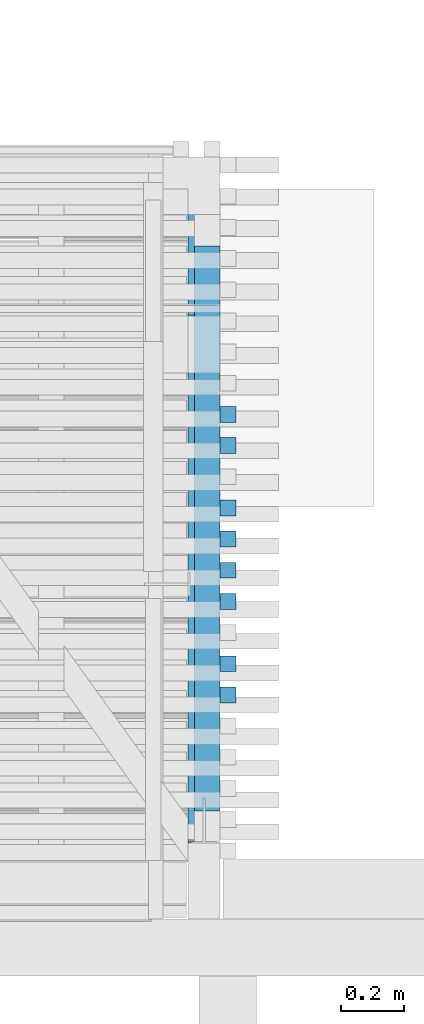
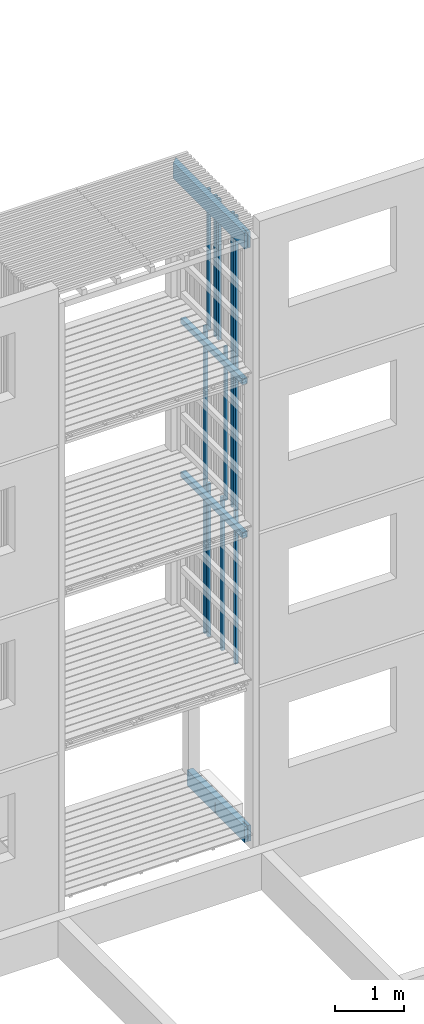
# One storey, part 106 of 182: 17 beams.
"""IFC2X3 building model written with IfcOpenShell, lengths in metres."""

from ifc_helpers import new_model, si_unit, frame, origin, place, context, project, spatial, faceted_brep, element, save


model = new_model("IFC2X3")

# Units and contexts
model_context = context("Model", 3, precision=1e-06, world=origin())
ifc_project = project(units=[si_unit("LENGTHUNIT", "METRE"), si_unit("PLANEANGLEUNIT", "RADIAN")], contexts=[model_context])

# Site, building, storey
site = spatial("IfcSite", under=ifc_project, CompositionType="ELEMENT")
building = spatial("IfcBuilding", under=site, CompositionType="ELEMENT")
storey = spatial("IfcBuildingStorey", under=building, Name="vs", CompositionType="ELEMENT", Elevation=-0.85)

# Beams
placement = place(None, origin())
beam_1_placement = place(placement, frame((46.37040135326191, 6.361441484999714, 7.974999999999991), z_axis=(-1.0, 0.0, 0.0), x_axis=(0.0, 0.0, 1.0)))
element("IfcBeam", 1, at=beam_1_placement, inside=storey, Name="Bardage", context=model_context, shape_type="Brep", body=[
    faceted_brep([(2.479999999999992, -0.025000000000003, 0.024999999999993), (2.479999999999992, -0.025000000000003, -0.025000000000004), (2.479999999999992, 0.024999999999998, -0.025000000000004), (2.479999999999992, 0.024999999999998, 0.024999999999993), (0.0, 0.024999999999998, 0.024999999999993), (0.0, -0.025000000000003, 0.024999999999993), (2.479999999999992, -0.025000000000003, 0.024999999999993), (2.479999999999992, 0.024999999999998, 0.024999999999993), (0.0, -0.025000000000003, 0.024999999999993), (0.0, 0.024999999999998, 0.024999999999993), (0.0, 0.024999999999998, -0.025000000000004), (0.0, -0.025000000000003, -0.025000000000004), (0.0, 0.024999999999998, -0.025000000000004), (0.0, 0.024999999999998, 0.024999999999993), (2.479999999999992, 0.024999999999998, 0.024999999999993), (2.479999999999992, 0.024999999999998, -0.025000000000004), (0.0, -0.025000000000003, -0.025000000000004), (0.0, 0.024999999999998, -0.025000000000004), (2.479999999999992, 0.024999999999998, -0.025000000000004), (2.479999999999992, -0.025000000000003, -0.025000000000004), (2.479999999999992, -0.025000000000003, 0.024999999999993), (0.0, -0.025000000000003, 0.024999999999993), (0.0, -0.025000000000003, -0.025000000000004), (2.479999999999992, -0.025000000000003, -0.025000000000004)], [[[0, 1, 2, 3]], [[4, 5, 6, 7]], [[8, 9, 10, 11]], [[12, 13, 14, 15]], [[16, 17, 18, 19]], [[20, 21, 22, 23]]]),
])
beam_2_placement = place(placement, frame((46.37040135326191, 6.361441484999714, 2.575000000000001), z_axis=(-1.0, 0.0, 0.0), x_axis=(0.0, 0.0, 1.0)))
element("IfcBeam", 2, at=beam_2_placement, inside=storey, Name="Bardage", context=model_context, shape_type="Brep", body=[
    faceted_brep([(0.0, -0.025000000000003, 0.024999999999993), (0.0, 0.024999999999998, 0.024999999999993), (0.0, 0.024999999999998, -0.025000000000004), (0.0, -0.025000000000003, -0.025000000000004), (2.699961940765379, 0.024999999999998, -0.025000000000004), (2.699961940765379, 0.024999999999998, 0.024999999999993), (2.699961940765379, -0.025000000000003, 0.024999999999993), (2.699961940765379, -0.025000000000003, -0.025000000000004), (0.0, -0.025000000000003, -0.025000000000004), (0.0, 0.024999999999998, -0.025000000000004), (2.699961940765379, 0.024999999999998, -0.025000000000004), (2.699961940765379, -0.025000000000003, -0.025000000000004), (2.699961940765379, 0.024999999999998, -0.025000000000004), (0.0, 0.024999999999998, -0.025000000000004), (0.0, 0.024999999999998, 0.024999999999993), (2.699961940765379, 0.024999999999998, 0.024999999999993), (2.699961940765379, 0.024999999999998, 0.024999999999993), (0.0, 0.024999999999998, 0.024999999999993), (0.0, -0.025000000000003, 0.024999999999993), (2.699961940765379, -0.025000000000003, 0.024999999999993), (2.699961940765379, -0.025000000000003, 0.024999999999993), (0.0, -0.025000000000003, 0.024999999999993), (0.0, -0.025000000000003, -0.025000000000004), (2.699961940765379, -0.025000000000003, -0.025000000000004)], [[[0, 1, 2, 3]], [[4, 5, 6, 7]], [[8, 9, 10, 11]], [[12, 13, 14, 15]], [[16, 17, 18, 19]], [[20, 21, 22, 23]]]),
])
beam_3_placement = place(placement, frame((46.37040135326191, 5.968714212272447, 2.575000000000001), z_axis=(-1.0, 0.0, 0.0), x_axis=(0.0, 0.0, 1.0)))
element("IfcBeam", 3, at=beam_3_placement, inside=storey, Name="Bardage", context=model_context, shape_type="Brep", body=[
    faceted_brep([(0.0, -0.024999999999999, 0.024999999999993), (0.0, 0.024999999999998, 0.024999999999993), (0.0, 0.024999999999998, -0.025000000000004), (0.0, -0.024999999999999, -0.025000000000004), (2.699961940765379, 0.024999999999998, -0.025000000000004), (2.699961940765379, 0.024999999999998, 0.024999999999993), (2.699961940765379, -0.024999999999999, 0.024999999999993), (2.699961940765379, -0.024999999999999, -0.025000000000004), (0.0, -0.024999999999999, -0.025000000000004), (0.0, 0.024999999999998, -0.025000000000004), (2.699961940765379, 0.024999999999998, -0.025000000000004), (2.699961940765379, -0.024999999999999, -0.025000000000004), (2.699961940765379, 0.024999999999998, -0.025000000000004), (0.0, 0.024999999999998, -0.025000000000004), (0.0, 0.024999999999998, 0.024999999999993), (2.699961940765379, 0.024999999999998, 0.024999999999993), (2.699961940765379, 0.024999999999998, 0.024999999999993), (0.0, 0.024999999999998, 0.024999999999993), (0.0, -0.024999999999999, 0.024999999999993), (2.699961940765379, -0.024999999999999, 0.024999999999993), (2.699961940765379, -0.024999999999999, 0.024999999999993), (0.0, -0.024999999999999, 0.024999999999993), (0.0, -0.024999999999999, -0.025000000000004), (2.699961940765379, -0.024999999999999, -0.025000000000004)], [[[0, 1, 2, 3]], [[4, 5, 6, 7]], [[8, 9, 10, 11]], [[12, 13, 14, 15]], [[16, 17, 18, 19]], [[20, 21, 22, 23]]]),
])
beam_4_placement = place(placement, frame((46.37040135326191, 5.575986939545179, 5.274999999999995), z_axis=(-1.0, 0.0, 0.0), x_axis=(0.0, 0.0, 1.0)))
element("IfcBeam", 4, at=beam_4_placement, inside=storey, Name="Bardage", context=model_context, shape_type="Brep", body=[
    faceted_brep([(1e-15, -0.025000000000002, 0.024999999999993), (1e-15, 0.024999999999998, 0.024999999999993), (1e-15, 0.024999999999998, -0.025000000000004), (1e-15, -0.025000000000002, -0.025000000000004), (2.699999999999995, -0.025000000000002, -0.025000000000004), (2.699999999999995, 0.024999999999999, -0.025000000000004), (2.699999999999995, 0.024999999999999, 0.024999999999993), (2.699999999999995, -0.025000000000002, 0.024999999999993), (1e-15, -0.025000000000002, 0.024999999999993), (1e-15, -0.025000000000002, -0.025000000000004), (2.699999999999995, -0.025000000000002, -0.025000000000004), (2.699999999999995, -0.025000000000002, 0.024999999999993), (2.699999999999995, -0.025000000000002, -0.025000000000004), (1e-15, -0.025000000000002, -0.025000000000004), (1e-15, 0.024999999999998, -0.025000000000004), (2.699999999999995, 0.024999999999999, -0.025000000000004), (2.699999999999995, 0.024999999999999, -0.025000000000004), (1e-15, 0.024999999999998, -0.025000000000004), (1e-15, 0.024999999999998, 0.024999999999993), (2.699999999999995, 0.024999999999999, 0.024999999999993), (2.699999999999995, 0.024999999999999, 0.024999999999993), (1e-15, 0.024999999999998, 0.024999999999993), (1e-15, -0.025000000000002, 0.024999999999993), (2.699999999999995, -0.025000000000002, 0.024999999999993)], [[[0, 1, 2, 3]], [[4, 5, 6, 7]], [[8, 9, 10, 11]], [[12, 13, 14, 15]], [[16, 17, 18, 19]], [[20, 21, 22, 23]]]),
])
beam_5_placement = place(placement, frame((46.2954013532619, 5.110077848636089, -0.119999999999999), z_axis=(0.0, 0.0, 1.0), x_axis=(0.0, 1.0, 0.0)))
element("IfcBeam", 5, at=beam_5_placement, inside=storey, Name="Sommier", context=model_context, shape_type="Brep", body=[
    faceted_brep([(1.660000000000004, 0.049999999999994, 0.14), (1.660000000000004, -0.050000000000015, 0.14), (1.660000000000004, -0.050000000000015, -0.14), (1.660000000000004, 0.049999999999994, -0.14), (0.142000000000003, -0.004000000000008, -0.14), (0.142000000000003, 0.003999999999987, -0.14), (0.005000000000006, 0.003999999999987, -0.14), (0.005000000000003, 0.040999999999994, -0.14), (4e-15, 0.040999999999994, -0.14), (0.0, 0.049999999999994, -0.14), (1.660000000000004, 0.049999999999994, -0.14), (1.660000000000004, -0.050000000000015, -0.14), (0.0, -0.050000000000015, -0.14), (4e-15, -0.041000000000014, -0.14), (0.005000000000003, -0.041000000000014, -0.14), (0.005000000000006, -0.004000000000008, -0.14), (1.660000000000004, 0.049999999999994, 0.14), (1.660000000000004, 0.049999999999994, -0.14), (0.0, 0.049999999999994, -0.14), (0.0, 0.049999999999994, 0.14), (0.852999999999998, 0.049999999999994, -0.123600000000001), (0.852999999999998, 0.049999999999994, 0.051399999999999), (0.776999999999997, 0.049999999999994, 0.051399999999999), (0.776999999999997, 0.049999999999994, -0.123600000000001), (0.0, -0.050000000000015, 0.14), (4e-15, -0.041000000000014, 0.14), (4e-15, -0.041000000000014, -0.14), (0.0, -0.050000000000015, -0.14), (0.852999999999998, 0.044999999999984, -0.123600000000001), (0.776999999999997, 0.044999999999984, -0.123600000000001), (0.776999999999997, 0.044999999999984, 0.051399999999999), (0.852999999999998, 0.044999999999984, 0.051399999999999), (0.852999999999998, 0.044999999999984, 0.051399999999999), (0.776999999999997, 0.044999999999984, 0.051399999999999), (0.776999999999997, 0.049999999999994, 0.051399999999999), (0.852999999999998, 0.049999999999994, 0.051399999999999), (0.776999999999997, 0.044999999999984, -0.123600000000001), (0.852999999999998, 0.044999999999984, -0.123600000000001), (0.852999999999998, 0.049999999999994, -0.123600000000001), (0.776999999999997, 0.049999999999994, -0.123600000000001), (0.852999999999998, 0.049999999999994, 0.051399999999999), (0.852999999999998, 0.049999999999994, -0.123600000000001), (0.852999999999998, 0.044999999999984, -0.123600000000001), (0.852999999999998, 0.044999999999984, 0.051399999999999), (0.776999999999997, 0.044999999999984, 0.051399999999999), (0.776999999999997, 0.044999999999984, -0.123600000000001), (0.776999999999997, 0.049999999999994, -0.123600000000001), (0.776999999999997, 0.049999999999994, 0.051399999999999), (0.0, -0.050000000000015, -0.14), (1.660000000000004, -0.050000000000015, -0.14), (1.660000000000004, -0.050000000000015, 0.14), (0.0, -0.050000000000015, 0.14), (0.0, 0.049999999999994, 0.14), (0.0, 0.049999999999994, -0.14), (4e-15, 0.040999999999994, -0.14), (4e-15, 0.040999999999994, 0.14), (0.0, -0.050000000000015, 0.14), (1.660000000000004, -0.050000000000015, 0.14), (1.660000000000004, 0.049999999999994, 0.14), (0.0, 0.049999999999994, 0.14), (4e-15, 0.040999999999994, 0.14), (0.005000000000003, 0.040999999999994, 0.14), (0.005000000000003, 0.003999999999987, 0.14), (0.142000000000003, 0.003999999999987, 0.140000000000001), (0.142000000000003, -0.004000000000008, 0.140000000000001), (0.005000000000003, -0.004000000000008, 0.14), (0.005000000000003, -0.041000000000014, 0.14), (4e-15, -0.041000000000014, 0.14), (0.142000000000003, 0.003999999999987, -0.14), (0.142000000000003, -0.004000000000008, -0.14), (0.142000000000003, -0.004000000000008, 0.140000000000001), (0.142000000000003, 0.003999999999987, 0.140000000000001), (0.005000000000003, -0.004000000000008, 0.14), (0.142000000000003, -0.004000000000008, 0.140000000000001), (0.142000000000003, -0.004000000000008, -0.14), (0.005000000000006, -0.004000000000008, -0.14), (0.005000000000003, -0.004000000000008, 0.14), (0.005000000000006, -0.004000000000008, -0.14), (0.005000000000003, -0.041000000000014, -0.14), (0.005000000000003, -0.041000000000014, 0.14), (0.005000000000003, -0.041000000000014, 0.14), (0.005000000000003, -0.041000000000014, -0.14), (4e-15, -0.041000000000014, -0.14), (4e-15, -0.041000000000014, 0.14), (4e-15, 0.040999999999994, 0.14), (4e-15, 0.040999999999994, -0.14), (0.005000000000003, 0.040999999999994, -0.14), (0.005000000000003, 0.040999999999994, 0.14), (0.005000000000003, 0.040999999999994, 0.14), (0.005000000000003, 0.040999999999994, -0.14), (0.005000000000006, 0.003999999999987, -0.14), (0.005000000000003, 0.003999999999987, 0.14), (0.142000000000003, 0.003999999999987, 0.140000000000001), (0.005000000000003, 0.003999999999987, 0.14), (0.005000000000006, 0.003999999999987, -0.14), (0.142000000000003, 0.003999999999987, -0.14)], [[[0, 1, 2, 3]], [[4, 5, 6, 7, 8, 9, 10, 11, 12, 13, 14, 15]], [[16, 17, 18, 19], [20, 21, 22, 23]], [[24, 25, 26, 27]], [[28, 29, 30, 31]], [[32, 33, 34, 35]], [[36, 37, 38, 39]], [[40, 41, 42, 43]], [[44, 45, 46, 47]], [[48, 49, 50, 51]], [[52, 53, 54, 55]], [[56, 57, 58, 59, 60, 61, 62, 63, 64, 65, 66, 67]], [[68, 69, 70, 71]], [[72, 73, 74, 75]], [[76, 77, 78, 79]], [[80, 81, 82, 83]], [[84, 85, 86, 87]], [[88, 89, 90, 91]], [[92, 93, 94, 95]]]),
])
beam_6_placement = place(placement, frame((46.29540135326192, 5.115077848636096, 10.314999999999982), z_axis=(0.0, 0.0, 1.0), x_axis=(0.0, 1.0, 0.0)))
element("IfcBeam", 6, at=beam_6_placement, inside=storey, Name="Sommier", context=model_context, shape_type="Brep", body=[
    faceted_brep([(2.054999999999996, 0.049999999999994, 0.140000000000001), (2.054999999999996, 0.049999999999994, -0.140000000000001), (0.0, 0.049999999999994, -0.140000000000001), (0.0, 0.049999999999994, 0.140000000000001), (2.054999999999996, 0.049999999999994, -0.140000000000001), (2.054999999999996, 0.049999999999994, 0.140000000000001), (2.154999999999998, -0.05, 0.140000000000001), (2.154999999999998, -0.05, -0.140000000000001), (-4e-15, -0.003999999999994, 0.140000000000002), (0.0, -0.05, 0.140000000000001), (2.154999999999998, -0.05, 0.140000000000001), (2.054999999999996, 0.049999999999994, 0.140000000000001), (0.0, 0.049999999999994, 0.140000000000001), (-4e-15, 0.004000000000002, 0.140000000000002), (0.136999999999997, 0.004000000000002, 0.140000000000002), (0.136999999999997, -0.003999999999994, 0.140000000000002), (2.154999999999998, -0.05, -0.140000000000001), (2.154999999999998, -0.05, 0.140000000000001), (0.0, -0.05, 0.140000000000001), (0.0, -0.05, -0.140000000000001), (0.0, 0.004000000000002, -0.139999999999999), (-4e-15, 0.004000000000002, 0.140000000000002), (0.0, 0.049999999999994, 0.140000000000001), (0.0, 0.049999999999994, -0.140000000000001), (0.0, -0.05, 0.140000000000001), (-4e-15, -0.003999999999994, 0.140000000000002), (0.0, -0.003999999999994, -0.139999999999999), (0.0, -0.05, -0.140000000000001), (0.0, 0.049999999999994, -0.140000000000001), (2.054999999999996, 0.049999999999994, -0.140000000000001), (2.154999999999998, -0.05, -0.140000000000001), (0.0, -0.05, -0.140000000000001), (0.0, -0.003999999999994, -0.139999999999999), (0.136999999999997, -0.003999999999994, -0.139999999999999), (0.136999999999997, 0.004000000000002, -0.139999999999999), (0.0, 0.004000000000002, -0.139999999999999), (0.136999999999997, 0.004000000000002, -0.139999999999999), (0.136999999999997, -0.003999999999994, -0.139999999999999), (0.136999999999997, -0.003999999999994, 0.140000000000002), (0.136999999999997, 0.004000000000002, 0.140000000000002), (-4e-15, -0.003999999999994, 0.140000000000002), (0.136999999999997, -0.003999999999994, 0.140000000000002), (0.136999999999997, -0.003999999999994, -0.139999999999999), (0.0, -0.003999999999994, -0.139999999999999), (0.136999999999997, 0.004000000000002, 0.140000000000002), (-4e-15, 0.004000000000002, 0.140000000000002), (0.0, 0.004000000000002, -0.139999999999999), (0.136999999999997, 0.004000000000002, -0.139999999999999)], [[[0, 1, 2, 3]], [[4, 5, 6, 7]], [[8, 9, 10, 11, 12, 13, 14, 15]], [[16, 17, 18, 19]], [[20, 21, 22, 23]], [[24, 25, 26, 27]], [[28, 29, 30, 31, 32, 33, 34, 35]], [[36, 37, 38, 39]], [[40, 41, 42, 43]], [[44, 45, 46, 47]]]),
])
beam_7_placement = place(placement, frame((46.37040135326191, 5.674168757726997, 5.274999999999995), z_axis=(-1.0, 0.0, 0.0), x_axis=(0.0, 0.0, 1.0)))
element("IfcBeam", 7, at=beam_7_placement, inside=storey, Name="Bardage", context=model_context, shape_type="Brep", body=[
    faceted_brep([(1e-15, -0.025000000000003, 0.024999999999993), (1e-15, 0.024999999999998, 0.024999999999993), (1e-15, 0.024999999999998, -0.025000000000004), (1e-15, -0.025000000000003, -0.025000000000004), (2.699999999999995, -0.025000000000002, -0.025000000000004), (2.699999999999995, 0.024999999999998, -0.025000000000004), (2.699999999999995, 0.024999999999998, 0.024999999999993), (2.699999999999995, -0.025000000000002, 0.024999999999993), (1e-15, -0.025000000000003, 0.024999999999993), (1e-15, -0.025000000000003, -0.025000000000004), (2.699999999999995, -0.025000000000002, -0.025000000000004), (2.699999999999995, -0.025000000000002, 0.024999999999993), (2.699999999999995, -0.025000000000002, -0.025000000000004), (1e-15, -0.025000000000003, -0.025000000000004), (1e-15, 0.024999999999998, -0.025000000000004), (2.699999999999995, 0.024999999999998, -0.025000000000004), (2.699999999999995, 0.024999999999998, -0.025000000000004), (1e-15, 0.024999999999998, -0.025000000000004), (1e-15, 0.024999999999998, 0.024999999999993), (2.699999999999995, 0.024999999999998, 0.024999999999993), (2.699999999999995, 0.024999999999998, 0.024999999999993), (1e-15, 0.024999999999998, 0.024999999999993), (1e-15, -0.025000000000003, 0.024999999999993), (2.699999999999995, -0.025000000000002, 0.024999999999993)], [[[0, 1, 2, 3]], [[4, 5, 6, 7]], [[8, 9, 10, 11]], [[12, 13, 14, 15]], [[16, 17, 18, 19]], [[20, 21, 22, 23]]]),
])
beam_8_placement = place(placement, frame((46.37040135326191, 6.066896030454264, 7.974999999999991), z_axis=(-1.0, 0.0, 0.0), x_axis=(0.0, 0.0, 1.0)))
element("IfcBeam", 8, at=beam_8_placement, inside=storey, Name="Bardage", context=model_context, shape_type="Brep", body=[
    faceted_brep([(2.479999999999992, -0.025000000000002, 0.024999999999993), (2.479999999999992, -0.025000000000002, -0.025000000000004), (2.479999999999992, 0.024999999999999, -0.025000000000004), (2.479999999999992, 0.024999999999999, 0.024999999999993), (0.0, 0.024999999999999, 0.024999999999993), (0.0, -0.025000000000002, 0.024999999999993), (2.479999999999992, -0.025000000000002, 0.024999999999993), (2.479999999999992, 0.024999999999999, 0.024999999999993), (0.0, -0.025000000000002, 0.024999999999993), (0.0, 0.024999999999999, 0.024999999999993), (0.0, 0.024999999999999, -0.025000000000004), (0.0, -0.025000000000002, -0.025000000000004), (0.0, 0.024999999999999, -0.025000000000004), (0.0, 0.024999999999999, 0.024999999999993), (2.479999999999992, 0.024999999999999, 0.024999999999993), (2.479999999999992, 0.024999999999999, -0.025000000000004), (0.0, -0.025000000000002, -0.025000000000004), (0.0, 0.024999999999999, -0.025000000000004), (2.479999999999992, 0.024999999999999, -0.025000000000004), (2.479999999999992, -0.025000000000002, -0.025000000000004), (2.479999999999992, -0.025000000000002, 0.024999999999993), (0.0, -0.025000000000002, 0.024999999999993), (0.0, -0.025000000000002, -0.025000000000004), (2.479999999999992, -0.025000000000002, -0.025000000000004)], [[[0, 1, 2, 3]], [[4, 5, 6, 7]], [[8, 9, 10, 11]], [[12, 13, 14, 15]], [[16, 17, 18, 19]], [[20, 21, 22, 23]]]),
])
beam_9_placement = place(placement, frame((46.37040135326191, 6.459623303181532, 2.575000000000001), z_axis=(-1.0, 0.0, 0.0), x_axis=(0.0, 0.0, 1.0)))
element("IfcBeam", 9, at=beam_9_placement, inside=storey, Name="Bardage", context=model_context, shape_type="Brep", body=[
    faceted_brep([(0.0, -0.025000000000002, 0.024999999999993), (0.0, 0.024999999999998, 0.024999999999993), (0.0, 0.024999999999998, -0.025000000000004), (0.0, -0.025000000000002, -0.025000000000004), (2.699961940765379, 0.024999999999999, -0.025000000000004), (2.699961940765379, 0.024999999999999, 0.024999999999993), (2.699961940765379, -0.025000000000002, 0.024999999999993), (2.699961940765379, -0.025000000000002, -0.025000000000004), (0.0, -0.025000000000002, -0.025000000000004), (0.0, 0.024999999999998, -0.025000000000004), (2.699961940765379, 0.024999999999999, -0.025000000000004), (2.699961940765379, -0.025000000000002, -0.025000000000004), (2.699961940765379, 0.024999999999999, -0.025000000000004), (0.0, 0.024999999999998, -0.025000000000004), (0.0, 0.024999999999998, 0.024999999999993), (2.699961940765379, 0.024999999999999, 0.024999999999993), (2.699961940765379, 0.024999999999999, 0.024999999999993), (0.0, 0.024999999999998, 0.024999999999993), (0.0, -0.025000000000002, 0.024999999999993), (2.699961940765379, -0.025000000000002, 0.024999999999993), (2.699961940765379, -0.025000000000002, 0.024999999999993), (0.0, -0.025000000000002, 0.024999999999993), (0.0, -0.025000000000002, -0.025000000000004), (2.699961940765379, -0.025000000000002, -0.025000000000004)], [[[0, 1, 2, 3]], [[4, 5, 6, 7]], [[8, 9, 10, 11]], [[12, 13, 14, 15]], [[16, 17, 18, 19]], [[20, 21, 22, 23]]]),
])
beam_10_placement = place(placement, frame((46.37040135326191, 6.459623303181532, 5.274999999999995), z_axis=(-1.0, 0.0, 0.0), x_axis=(0.0, 0.0, 1.0)))
element("IfcBeam", 10, at=beam_10_placement, inside=storey, Name="Bardage", context=model_context, shape_type="Brep", body=[
    faceted_brep([(1e-15, -0.025000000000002, 0.024999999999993), (1e-15, 0.024999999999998, 0.024999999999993), (1e-15, 0.024999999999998, -0.025000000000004), (1e-15, -0.025000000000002, -0.025000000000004), (2.699999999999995, -0.025000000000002, -0.025000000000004), (2.699999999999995, 0.024999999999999, -0.025000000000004), (2.699999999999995, 0.024999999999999, 0.024999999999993), (2.699999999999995, -0.025000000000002, 0.024999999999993), (1e-15, -0.025000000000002, 0.024999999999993), (1e-15, -0.025000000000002, -0.025000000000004), (2.699999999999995, -0.025000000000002, -0.025000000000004), (2.699999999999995, -0.025000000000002, 0.024999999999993), (2.699999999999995, -0.025000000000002, -0.025000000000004), (1e-15, -0.025000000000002, -0.025000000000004), (1e-15, 0.024999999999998, -0.025000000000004), (2.699999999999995, 0.024999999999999, -0.025000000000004), (2.699999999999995, 0.024999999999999, -0.025000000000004), (1e-15, 0.024999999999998, -0.025000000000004), (1e-15, 0.024999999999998, 0.024999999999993), (2.699999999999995, 0.024999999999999, 0.024999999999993), (2.699999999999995, 0.024999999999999, 0.024999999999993), (1e-15, 0.024999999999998, 0.024999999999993), (1e-15, -0.025000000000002, 0.024999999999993), (2.699999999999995, -0.025000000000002, 0.024999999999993)], [[[0, 1, 2, 3]], [[4, 5, 6, 7]], [[8, 9, 10, 11]], [[12, 13, 14, 15]], [[16, 17, 18, 19]], [[20, 21, 22, 23]]]),
])
beam_11_placement = place(placement, frame((46.30540135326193, 5.210077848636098, 5.074999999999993), z_axis=(0.0, 0.0, 1.0), x_axis=(0.0, 1.0, 0.0)))
element("IfcBeam", 11, at=beam_11_placement, inside=storey, Name="Support bardage", context=model_context, shape_type="Brep", body=[
    faceted_brep([(1.779999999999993, -0.039999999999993, 0.050000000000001), (1.779999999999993, -0.039999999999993, -0.050000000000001), (1.779999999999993, 0.04000000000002, -0.050000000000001), (1.779999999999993, 0.04000000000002, 0.050000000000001), (-4e-15, -0.039999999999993, -0.050000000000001), (1.779999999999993, -0.039999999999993, -0.050000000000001), (1.779999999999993, -0.039999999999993, 0.050000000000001), (-4e-15, -0.039999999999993, 0.050000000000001), (-4e-15, 0.04000000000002, -0.050000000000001), (1.779999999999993, 0.04000000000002, -0.050000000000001), (1.779999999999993, -0.039999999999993, -0.050000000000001), (-4e-15, -0.039999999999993, -0.050000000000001), (-4e-15, 0.04000000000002, 0.050000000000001), (1.779999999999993, 0.04000000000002, 0.050000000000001), (1.779999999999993, 0.04000000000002, -0.050000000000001), (-4e-15, 0.04000000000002, -0.050000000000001), (-4e-15, -0.039999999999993, 0.050000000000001), (1.779999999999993, -0.039999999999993, 0.050000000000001), (1.779999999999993, 0.04000000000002, 0.050000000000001), (-4e-15, 0.04000000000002, 0.050000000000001), (-4e-15, -0.039999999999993, -0.050000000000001), (-4e-15, -0.039999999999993, 0.050000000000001), (-4e-15, 0.04000000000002, 0.050000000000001), (-4e-15, 0.04000000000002, -0.050000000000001)], [[[0, 1, 2, 3]], [[4, 5, 6, 7]], [[8, 9, 10, 11]], [[12, 13, 14, 15]], [[16, 17, 18, 19]], [[20, 21, 22, 23]]]),
])
beam_12_placement = place(placement, frame((46.30540135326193, 5.210077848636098, 7.774999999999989), z_axis=(0.0, 0.0, 1.0), x_axis=(0.0, 1.0, 0.0)))
element("IfcBeam", 12, at=beam_12_placement, inside=storey, Name="Support bardage", context=model_context, shape_type="Brep", body=[
    faceted_brep([(1.779999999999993, -0.039999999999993, 0.050000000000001), (1.779999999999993, -0.039999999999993, -0.050000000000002), (1.779999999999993, 0.04000000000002, -0.050000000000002), (1.779999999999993, 0.04000000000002, 0.050000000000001), (-4e-15, -0.039999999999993, -0.050000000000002), (1.779999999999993, -0.039999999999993, -0.050000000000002), (1.779999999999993, -0.039999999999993, 0.050000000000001), (-4e-15, -0.039999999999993, 0.050000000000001), (-4e-15, 0.04000000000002, -0.050000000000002), (1.779999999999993, 0.04000000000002, -0.050000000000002), (1.779999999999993, -0.039999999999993, -0.050000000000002), (-4e-15, -0.039999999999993, -0.050000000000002), (-4e-15, 0.04000000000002, 0.050000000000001), (1.779999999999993, 0.04000000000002, 0.050000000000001), (1.779999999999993, 0.04000000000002, -0.050000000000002), (-4e-15, 0.04000000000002, -0.050000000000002), (-4e-15, -0.039999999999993, 0.050000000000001), (1.779999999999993, -0.039999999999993, 0.050000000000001), (1.779999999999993, 0.04000000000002, 0.050000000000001), (-4e-15, 0.04000000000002, 0.050000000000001), (-4e-15, -0.039999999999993, -0.050000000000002), (-4e-15, -0.039999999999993, 0.050000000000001), (-4e-15, 0.04000000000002, 0.050000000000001), (-4e-15, 0.04000000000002, -0.050000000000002)], [[[0, 1, 2, 3]], [[4, 5, 6, 7]], [[8, 9, 10, 11]], [[12, 13, 14, 15]], [[16, 17, 18, 19]], [[20, 21, 22, 23]]]),
])
beam_13_placement = place(placement, frame((46.37040135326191, 6.165077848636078, 7.974999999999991), z_axis=(-1.0, 0.0, 0.0), x_axis=(0.0, 1e-15, 1.0)))
element("IfcBeam", 13, at=beam_13_placement, inside=storey, Name="Bardage", context=model_context, shape_type="Brep", body=[
    faceted_brep([(2.479999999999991, -0.025000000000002, 0.024999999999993), (2.479999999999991, -0.025000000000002, -0.025000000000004), (2.479999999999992, 0.024999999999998, -0.025000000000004), (2.479999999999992, 0.024999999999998, 0.024999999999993), (0.0, 0.025000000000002, 0.024999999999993), (0.0, -0.024999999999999, 0.024999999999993), (2.479999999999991, -0.025000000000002, 0.024999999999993), (2.479999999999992, 0.024999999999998, 0.024999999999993), (0.0, -0.024999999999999, 0.024999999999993), (0.0, 0.025000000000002, 0.024999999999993), (0.0, 0.025000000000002, -0.025000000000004), (0.0, -0.024999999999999, -0.025000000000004), (0.0, 0.025000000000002, -0.025000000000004), (0.0, 0.025000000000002, 0.024999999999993), (2.479999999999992, 0.024999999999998, 0.024999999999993), (2.479999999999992, 0.024999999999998, -0.025000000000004), (0.0, -0.024999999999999, -0.025000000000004), (0.0, 0.025000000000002, -0.025000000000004), (2.479999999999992, 0.024999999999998, -0.025000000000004), (2.479999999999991, -0.025000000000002, -0.025000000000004), (2.479999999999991, -0.025000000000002, 0.024999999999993), (0.0, -0.024999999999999, 0.024999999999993), (0.0, -0.024999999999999, -0.025000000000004), (2.479999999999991, -0.025000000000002, -0.025000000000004)], [[[0, 1, 2, 3]], [[4, 5, 6, 7]], [[8, 9, 10, 11]], [[12, 13, 14, 15]], [[16, 17, 18, 19]], [[20, 21, 22, 23]]]),
])
beam_14_placement = place(placement, frame((46.37040135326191, 5.870532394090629, 5.274999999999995), z_axis=(-1.0, 0.0, 0.0), x_axis=(0.0, 0.0, 1.0)))
element("IfcBeam", 14, at=beam_14_placement, inside=storey, Name="Bardage", context=model_context, shape_type="Brep", body=[
    faceted_brep([(1e-15, -0.025000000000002, 0.024999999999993), (1e-15, 0.025000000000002, 0.024999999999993), (1e-15, 0.025000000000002, -0.025000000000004), (1e-15, -0.025000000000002, -0.025000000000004), (2.699999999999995, -0.025000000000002, -0.025000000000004), (2.699999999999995, 0.025000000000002, -0.025000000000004), (2.699999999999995, 0.025000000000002, 0.024999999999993), (2.699999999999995, -0.025000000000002, 0.024999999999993), (1e-15, -0.025000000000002, 0.024999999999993), (1e-15, -0.025000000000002, -0.025000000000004), (2.699999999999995, -0.025000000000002, -0.025000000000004), (2.699999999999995, -0.025000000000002, 0.024999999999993), (2.699999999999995, -0.025000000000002, -0.025000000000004), (1e-15, -0.025000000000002, -0.025000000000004), (1e-15, 0.025000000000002, -0.025000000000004), (2.699999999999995, 0.025000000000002, -0.025000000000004), (2.699999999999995, 0.025000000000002, -0.025000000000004), (1e-15, 0.025000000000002, -0.025000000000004), (1e-15, 0.025000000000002, 0.024999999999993), (2.699999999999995, 0.025000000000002, 0.024999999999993), (2.699999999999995, 0.025000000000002, 0.024999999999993), (1e-15, 0.025000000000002, 0.024999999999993), (1e-15, -0.025000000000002, 0.024999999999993), (2.699999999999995, -0.025000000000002, 0.024999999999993)], [[[0, 1, 2, 3]], [[4, 5, 6, 7]], [[8, 9, 10, 11]], [[12, 13, 14, 15]], [[16, 17, 18, 19]], [[20, 21, 22, 23]]]),
])
beam_15_placement = place(placement, frame((46.37040135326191, 5.575986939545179, 7.974999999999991), z_axis=(-1.0, 0.0, 0.0), x_axis=(0.0, 0.0, 1.0)))
element("IfcBeam", 15, at=beam_15_placement, inside=storey, Name="Bardage", context=model_context, shape_type="Brep", body=[
    faceted_brep([(2.479999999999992, -0.025000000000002, 0.024999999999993), (2.479999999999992, -0.025000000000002, -0.025000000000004), (2.479999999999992, 0.024999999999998, -0.025000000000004), (2.479999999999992, 0.024999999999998, 0.024999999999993), (0.0, 0.024999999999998, 0.024999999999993), (0.0, -0.025000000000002, 0.024999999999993), (2.479999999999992, -0.025000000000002, 0.024999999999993), (2.479999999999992, 0.024999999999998, 0.024999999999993), (0.0, -0.025000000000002, 0.024999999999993), (0.0, 0.024999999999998, 0.024999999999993), (0.0, 0.024999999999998, -0.025000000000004), (0.0, -0.025000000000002, -0.025000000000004), (0.0, 0.024999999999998, -0.025000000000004), (0.0, 0.024999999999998, 0.024999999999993), (2.479999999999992, 0.024999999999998, 0.024999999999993), (2.479999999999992, 0.024999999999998, -0.025000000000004), (0.0, -0.025000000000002, -0.025000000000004), (0.0, 0.024999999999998, -0.025000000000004), (2.479999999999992, 0.024999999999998, -0.025000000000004), (2.479999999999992, -0.025000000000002, -0.025000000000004), (2.479999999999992, -0.025000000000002, 0.024999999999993), (0.0, -0.025000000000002, 0.024999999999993), (0.0, -0.025000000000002, -0.025000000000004), (2.479999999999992, -0.025000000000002, -0.025000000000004)], [[[0, 1, 2, 3]], [[4, 5, 6, 7]], [[8, 9, 10, 11]], [[12, 13, 14, 15]], [[16, 17, 18, 19]], [[20, 21, 22, 23]]]),
])
beam_16_placement = place(placement, frame((46.37040135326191, 5.575986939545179, 2.575000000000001), z_axis=(-1.0, 0.0, 0.0), x_axis=(0.0, 0.0, 1.0)))
element("IfcBeam", 16, at=beam_16_placement, inside=storey, Name="Bardage", context=model_context, shape_type="Brep", body=[
    faceted_brep([(0.0, -0.025000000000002, 0.024999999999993), (0.0, 0.024999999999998, 0.024999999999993), (0.0, 0.024999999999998, -0.025000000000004), (0.0, -0.025000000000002, -0.025000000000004), (2.699961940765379, 0.025000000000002, -0.025000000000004), (2.699961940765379, 0.025000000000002, 0.024999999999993), (2.699961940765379, -0.025000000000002, 0.024999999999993), (2.699961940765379, -0.025000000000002, -0.025000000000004), (0.0, -0.025000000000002, -0.025000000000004), (0.0, 0.024999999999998, -0.025000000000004), (2.699961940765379, 0.025000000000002, -0.025000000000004), (2.699961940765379, -0.025000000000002, -0.025000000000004), (2.699961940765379, 0.025000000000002, -0.025000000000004), (0.0, 0.024999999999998, -0.025000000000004), (0.0, 0.024999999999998, 0.024999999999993), (2.699961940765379, 0.025000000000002, 0.024999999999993), (2.699961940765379, 0.025000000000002, 0.024999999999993), (0.0, 0.024999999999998, 0.024999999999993), (0.0, -0.025000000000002, 0.024999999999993), (2.699961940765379, -0.025000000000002, 0.024999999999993), (2.699961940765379, -0.025000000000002, 0.024999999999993), (0.0, -0.025000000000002, 0.024999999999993), (0.0, -0.025000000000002, -0.025000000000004), (2.699961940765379, -0.025000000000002, -0.025000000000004)], [[[0, 1, 2, 3]], [[4, 5, 6, 7]], [[8, 9, 10, 11]], [[12, 13, 14, 15]], [[16, 17, 18, 19]], [[20, 21, 22, 23]]]),
])
beam_17_placement = place(placement, frame((46.37040135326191, 5.674168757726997, 7.974999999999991), z_axis=(-1.0, 0.0, 0.0), x_axis=(0.0, 0.0, 1.0)))
element("IfcBeam", 17, at=beam_17_placement, inside=storey, Name="Bardage", context=model_context, shape_type="Brep", body=[
    faceted_brep([(2.479999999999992, -0.025000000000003, 0.024999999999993), (2.479999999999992, -0.025000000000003, -0.025000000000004), (2.479999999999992, 0.024999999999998, -0.025000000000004), (2.479999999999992, 0.024999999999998, 0.024999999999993), (0.0, 0.024999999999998, 0.024999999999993), (0.0, -0.025000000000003, 0.024999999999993), (2.479999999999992, -0.025000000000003, 0.024999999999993), (2.479999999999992, 0.024999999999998, 0.024999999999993), (0.0, -0.025000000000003, 0.024999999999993), (0.0, 0.024999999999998, 0.024999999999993), (0.0, 0.024999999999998, -0.025000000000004), (0.0, -0.025000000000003, -0.025000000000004), (0.0, 0.024999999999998, -0.025000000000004), (0.0, 0.024999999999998, 0.024999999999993), (2.479999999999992, 0.024999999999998, 0.024999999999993), (2.479999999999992, 0.024999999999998, -0.025000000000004), (0.0, -0.025000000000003, -0.025000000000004), (0.0, 0.024999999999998, -0.025000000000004), (2.479999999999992, 0.024999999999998, -0.025000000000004), (2.479999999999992, -0.025000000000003, -0.025000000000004), (2.479999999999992, -0.025000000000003, 0.024999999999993), (0.0, -0.025000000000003, 0.024999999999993), (0.0, -0.025000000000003, -0.025000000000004), (2.479999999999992, -0.025000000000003, -0.025000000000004)], [[[0, 1, 2, 3]], [[4, 5, 6, 7]], [[8, 9, 10, 11]], [[12, 13, 14, 15]], [[16, 17, 18, 19]], [[20, 21, 22, 23]]]),
])

save(model, "model.ifc")
